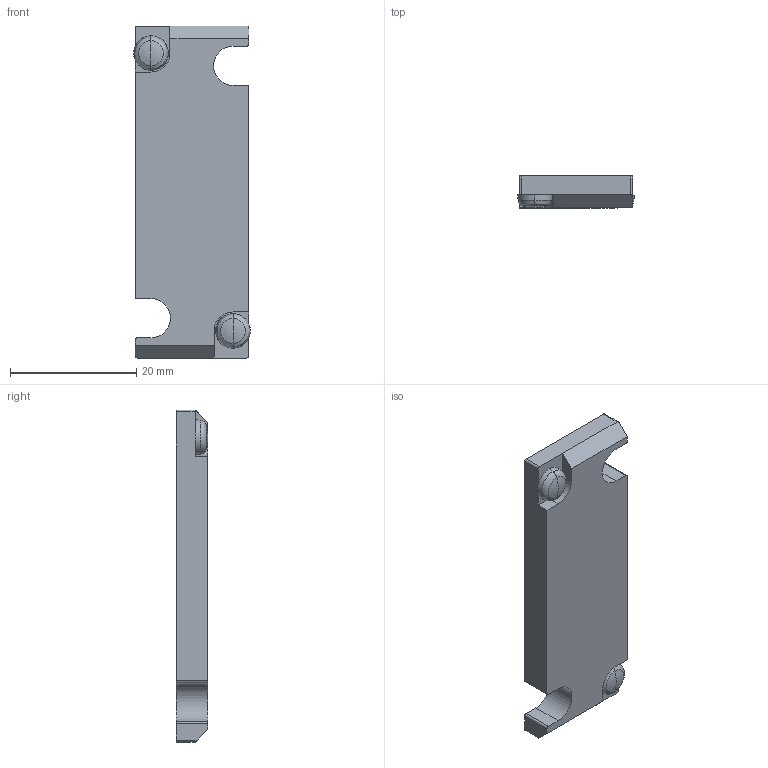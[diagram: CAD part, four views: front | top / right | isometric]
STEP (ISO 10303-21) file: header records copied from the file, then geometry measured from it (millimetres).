
FILE_DESCRIPTION( (''), '2;1');
FILE_NAME ('CVICAD02.3396.F15_PP_21498.stp','2021-07-12T19:12:48',(''),(''),'spGate 12.6.6','','');
FILE_SCHEMA (('AUTOMOTIVE_DESIGN'));
Length unit declared in the file: millimetre
Bounding box: 18.48 x 5 x 52.6 mm (x, y, z)
Volume: 4301 mm3; surface area: 2559.8 mm2
Topology: 1 solids, 1 shells, 46 faces, 124 edges, 76 vertices
Faces by surface type: plane 22, cylinder 12, bspline 8, sphere 4
Entity records: 2477 total; most frequent: CARTESIAN_POINT 402, ORIENTED_EDGE 240, DIRECTION 220, COLOUR_RGB 167, PRESENTATION_STYLE_ASSIGNMENT 167, STYLED_ITEM 167, EDGE_CURVE 120, DRAUGHTING_PRE_DEFINED_CURVE_FONT 120
